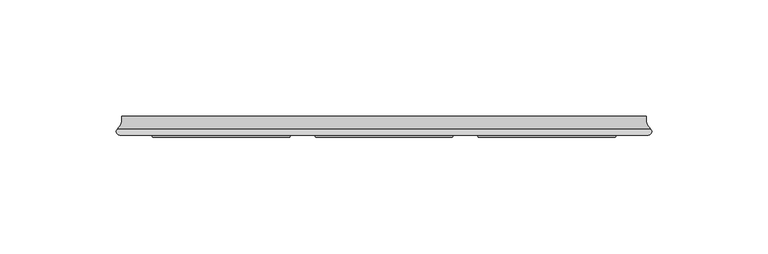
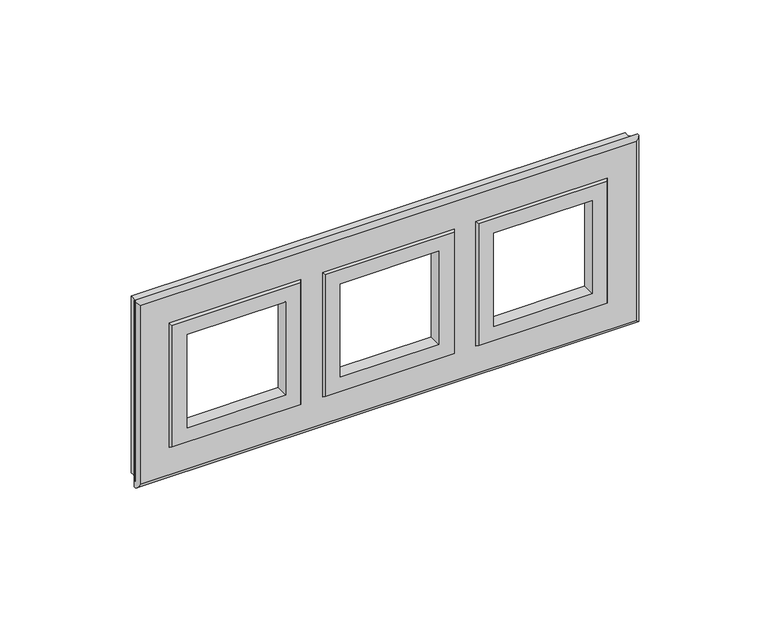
"""IFC4 building model written with IfcOpenShell, lengths in millimetres: proxy geometry."""

from ifc_helpers import new_model, si_unit, frame, origin, place, context, project, spatial, polyline, ellipse_curve, source, transform, mapped, element, save
from ifc_brep_helpers import plane_surface, cylinder_surface, revolved_surface, advanced_brep


def electrical_fixtures_578d20b1(model_context):
    return source(origin(), model_context, "Body", "AdvancedBrep", [
        advanced_brep(
        [(113.2959929, -8.0, -43.2959929), (114.5234735, -5.464633, -44.5234735), (114.5234735, -5.464633, 44.5234735), (113.2959929, -8.0, 43.2959929), (112.7730895, 0.0, -42.7730895), (112.7730895, 0.0, 42.7730895), (-114.5234735, -5.464633, 44.5234735), (-113.2959929, -8.0, 43.2959929), (-112.7730895, 0.0, 42.7730895), (-114.5234735, -5.464633, -44.5234735), (-113.2959929, -8.0, -43.2959929), (-112.7730895, 0.0, -42.7730895), (30.0257192, -8.0, 30.0257192), (30.0257192, -8.0, -30.0257192), (-30.0257192, -8.0, -30.0257192), (-30.0257192, -8.0, 30.0257192), (-39.9742808, -8.0, 30.0257192), (-39.9742808, -8.0, -30.0257192), (-100.0257192, -8.0, -30.0257192), (-100.0257192, -8.0, 30.0257192), (100.0257192, -8.0, 30.0257192), (100.0257192, -8.0, -30.0257192), (39.9742808, -8.0, -30.0257192), (39.9742808, -8.0, 30.0257192), (105.5, 0.0, 35.5), (-105.5, 0.0, 35.5), (-105.5, 0.0, -35.5), (105.5, 0.0, -35.5), (105.5, -3.0, -35.5), (105.5, -3.0, 35.5), (-105.5, -3.0, 35.5), (-105.5, -3.0, -35.5), (22.5, -3.0, -22.5), (22.5, -3.0, 22.5), (-22.5, -3.0, 22.5), (-22.5, -3.0, -22.5), (-47.5, -3.0, -22.5), (-47.5, -3.0, 22.5), (-92.5, -3.0, 22.5), (-92.5, -3.0, -22.5), (92.5, -3.0, -22.5), (92.5, -3.0, 22.5), (47.5, -3.0, 22.5), (47.5, -3.0, -22.5), (22.5, -9.0, -22.5), (22.5, -9.0, 22.5), (29.4248586, -9.0, -29.4248586), (29.4248586, -9.0, 29.4248586), (-22.5, -9.0, 22.5), (-29.4248586, -9.0, 29.4248586), (-22.5, -9.0, -22.5), (-29.4248586, -9.0, -29.4248586), (-47.5, -9.0, -22.5), (-47.5, -9.0, 22.5), (-40.5751414, -9.0, -29.4248586), (-40.5751414, -9.0, 29.4248586), (-92.5, -9.0, 22.5), (-99.4248586, -9.0, 29.4248586), (-92.5, -9.0, -22.5), (-99.4248586, -9.0, -29.4248586), (92.5, -9.0, -22.5), (92.5, -9.0, 22.5), (99.4248586, -9.0, -29.4248586), (99.4248586, -9.0, 29.4248586), (47.5, -9.0, 22.5), (40.5751414, -9.0, 29.4248586), (47.5, -9.0, -22.5), (40.5751414, -9.0, -29.4248586)],
        [
            (0, 1, ellipse_curve(frame((113.529603, -6.5482791, -43.529603), z_axis=(0.7071067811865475, 0.0, 0.7071067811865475), x_axis=(0.7071067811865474, 0.0, -0.7071067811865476)), 2.0794554, 1.470397)),
            (1, 2),
            (2, 3, ellipse_curve(frame((113.529603, -6.5482791, 43.529603), z_axis=(0.7071067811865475, 0.0, -0.7071067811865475), x_axis=(-0.7071067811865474, 0.0, -0.7071067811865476)), 2.0794554, 1.470397)),
            (3, 0),
            (1, 4, ellipse_curve(frame((118.4359157, -1.1987829, -48.4359157), z_axis=(-0.7071067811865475, 0.0, -0.7071067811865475), x_axis=(-0.7071067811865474, 0.0, 0.7071067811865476)), 8.1859246, 5.7883228)),
            (4, 5),
            (5, 2, ellipse_curve(frame((118.4359157, -1.1987829, 48.4359157), z_axis=(-0.7071067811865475, 0.0, 0.7071067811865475), x_axis=(0.7071067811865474, 0.0, 0.7071067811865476)), 8.1859246, 5.7883228)),
            (2, 6),
            (6, 7, ellipse_curve(frame((-113.529603, -6.5482791, 43.529603), z_axis=(0.7071067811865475, 0.0, 0.7071067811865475), x_axis=(0.7071067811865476, 0.0, -0.7071067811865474)), 2.0794554, 1.470397)),
            (7, 3),
            (5, 8),
            (8, 6, ellipse_curve(frame((-118.4359157, -1.1987829, 48.4359157), z_axis=(-0.7071067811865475, 0.0, -0.7071067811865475), x_axis=(-0.7071067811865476, 0.0, 0.7071067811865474)), 8.1859246, 5.7883228)),
            (6, 9),
            (9, 10, ellipse_curve(frame((-113.529603, -6.5482791, -43.529603), z_axis=(-0.7071067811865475, 0.0, 0.7071067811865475), x_axis=(0.7071067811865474, 0.0, 0.7071067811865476)), 2.0794554, 1.470397)),
            (10, 7),
            (8, 11),
            (11, 9, ellipse_curve(frame((-118.4359157, -1.1987829, -48.4359157), z_axis=(0.7071067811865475, 0.0, -0.7071067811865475), x_axis=(-0.7071067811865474, 0.0, -0.7071067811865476)), 8.1859246, 5.7883228)),
            (0, 10),
            (9, 1),
            (12, 13),
            (13, 14),
            (14, 15),
            (15, 12),
            (16, 17),
            (17, 18),
            (18, 19),
            (19, 16),
            (20, 21),
            (21, 22),
            (22, 23),
            (23, 20),
            (4, 11),
            (24, 25),
            (25, 26),
            (26, 27),
            (27, 24),
            (27, 28),
            (28, 29),
            (29, 24),
            (29, 30),
            (30, 25),
            (30, 31),
            (31, 26),
            (28, 31),
            (32, 33),
            (33, 34),
            (34, 35),
            (35, 32),
            (36, 37),
            (37, 38),
            (38, 39),
            (39, 36),
            (40, 41),
            (41, 42),
            (42, 43),
            (43, 40),
            (32, 44),
            (44, 45),
            (45, 33),
            (46, 13),
            (12, 47),
            (47, 46),
            (45, 48),
            (48, 34),
            (15, 49),
            (49, 47),
            (48, 50),
            (50, 35),
            (14, 51),
            (51, 49),
            (51, 46),
            (44, 50),
            (36, 52),
            (52, 53),
            (53, 37),
            (54, 17),
            (16, 55),
            (55, 54),
            (53, 56),
            (56, 38),
            (19, 57),
            (57, 55),
            (56, 58),
            (58, 39),
            (18, 59),
            (59, 57),
            (59, 54),
            (52, 58),
            (40, 60),
            (60, 61),
            (61, 41),
            (62, 21),
            (20, 63),
            (63, 62),
            (61, 64),
            (64, 42),
            (23, 65),
            (65, 63),
            (64, 66),
            (66, 43),
            (22, 67),
            (67, 65),
            (67, 62),
            (60, 66),
        ],
        [
            cylinder_surface(frame((113.529603, -6.5482791, -45.0), z_axis=(0.0, 0.0, -1.0), x_axis=(-1.0, 0.0, 0.0)), 1.470397),
            revolved_surface(polyline([(112.64759289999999, -1.1987829, 54.22423849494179), (112.64759289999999, -1.1987829, -54.22423849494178)]), (118.4359157, -1.1987829, -45.0), (0.0, 0.0, 1.0)),
            cylinder_surface(frame((115.0, -6.5482791, 43.529603), z_axis=(1.0, 0.0, 0.0), x_axis=(0.0, 0.0, -1.0)), 1.470397),
            revolved_surface(polyline([(-124.2242384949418, -1.1987829, 42.6475929), (124.22423849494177, -1.1987829, 42.6475929)]), (115.0, -1.1987829, 48.4359157), (-1.0, 0.0, 0.0)),
            cylinder_surface(frame((-113.529603, -6.5482791, 45.0), z_axis=(0.0, 0.0, 1.0), x_axis=(1.0, 0.0, 0.0)), 1.470397),
            revolved_surface(polyline([(-112.64759289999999, -1.1987829, -54.22423849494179), (-112.64759289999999, -1.1987829, 54.22423849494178)]), (-118.4359157, -1.1987829, 45.0), (0.0, 0.0, -1.0)),
            cylinder_surface(frame((-115.0, -6.5482791, -43.529603), z_axis=(-1.0, 0.0, 0.0), x_axis=(0.0, 0.0, 1.0)), 1.470397),
            plane_surface(frame((-113.2959929, -8.0, -43.2959929), z_axis=(0.0, -1.0, 0.0), x_axis=(1.0, 0.0, 0.0))),
            plane_surface(frame((-105.5, 0.0, -35.5), z_axis=(0.0, 1.0, 0.0), x_axis=(1.0, 0.0, 0.0))),
            revolved_surface(polyline([(124.22423849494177, -1.1987829, -42.6475929), (-124.22423849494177, -1.1987829, -42.6475929)]), (-115.0, -1.1987829, -48.4359157), (1.0, 0.0, 0.0)),
            plane_surface(frame((105.5, -3.0, -35.5), z_axis=(-1.0, 0.0, 0.0), x_axis=(0.0, 0.0, 1.0))),
            plane_surface(frame((105.5, -3.0, 35.5), z_axis=(0.0, 0.0, -1.0), x_axis=(-1.0, 0.0, 0.0))),
            plane_surface(frame((-105.5, -3.0, 35.5), z_axis=(1.0, 0.0, 0.0), x_axis=(0.0, 0.0, -1.0))),
            plane_surface(frame((-100.0257192, -3.0, -30.0257192), z_axis=(0.0, 1.0, 0.0), x_axis=(1.0, 0.0, 0.0))),
            plane_surface(frame((-105.5, -3.0, -35.5), z_axis=(0.0, 0.0, 1.0), x_axis=(1.0, 0.0, 0.0))),
            plane_surface(frame((22.5, -9.0, -22.5), z_axis=(-1.0, 0.0, 0.0), x_axis=(0.0, 0.0, 1.0))),
            plane_surface(frame((30.0257192, -8.0, -30.0257192), z_axis=(0.8571673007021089, -0.5150380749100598, 0.0), x_axis=(0.0, 0.0, 1.0))),
            plane_surface(frame((22.5, -9.0, 22.5), z_axis=(0.0, 0.0, -1.0), x_axis=(-1.0, 0.0, 0.0))),
            plane_surface(frame((30.0257192, -8.0, 30.0257192), z_axis=(0.0, -0.5150380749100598, 0.8571673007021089), x_axis=(-1.0, 0.0, 0.0))),
            plane_surface(frame((-22.5, -9.0, 22.5), z_axis=(1.0, 0.0, 0.0), x_axis=(0.0, 0.0, -1.0))),
            plane_surface(frame((-30.0257192, -8.0, 30.0257192), z_axis=(-0.8571673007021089, -0.5150380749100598, 0.0), x_axis=(0.0, 0.0, -1.0))),
            plane_surface(frame((-29.4248586, -9.0, -29.4248586), z_axis=(0.0, -1.0, 0.0), x_axis=(1.0, 0.0, 0.0))),
            plane_surface(frame((-22.5, -9.0, -22.5), z_axis=(0.0, 0.0, 1.0), x_axis=(1.0, 0.0, 0.0))),
            plane_surface(frame((-30.0257192, -8.0, -30.0257192), z_axis=(0.0, -0.5150380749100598, -0.8571673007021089), x_axis=(1.0, 0.0, 0.0))),
            plane_surface(frame((-47.5, -9.0, -22.5), z_axis=(-1.0, 0.0, 0.0), x_axis=(0.0, 0.0, 1.0))),
            plane_surface(frame((-39.9742808, -8.0, -30.0257192), z_axis=(0.8571673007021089, -0.5150380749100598, 0.0), x_axis=(0.0, 0.0, 1.0))),
            plane_surface(frame((-47.5, -9.0, 22.5), z_axis=(0.0, 0.0, -1.0), x_axis=(-1.0, 0.0, 0.0))),
            plane_surface(frame((-39.9742808, -8.0, 30.0257192), z_axis=(0.0, -0.5150380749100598, 0.8571673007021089), x_axis=(-1.0, 0.0, 0.0))),
            plane_surface(frame((-92.5, -9.0, 22.5), z_axis=(1.0, 0.0, 0.0), x_axis=(0.0, 0.0, -1.0))),
            plane_surface(frame((-100.0257192, -8.0, 30.0257192), z_axis=(-0.8571673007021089, -0.5150380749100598, 0.0), x_axis=(0.0, 0.0, -1.0))),
            plane_surface(frame((-99.4248586, -9.0, -29.4248586), z_axis=(0.0, -1.0, 0.0), x_axis=(1.0, 0.0, 0.0))),
            plane_surface(frame((-92.5, -9.0, -22.5), z_axis=(0.0, 0.0, 1.0), x_axis=(1.0, 0.0, 0.0))),
            plane_surface(frame((-100.0257192, -8.0, -30.0257192), z_axis=(0.0, -0.5150380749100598, -0.8571673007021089), x_axis=(1.0, 0.0, 0.0))),
            plane_surface(frame((92.5, -9.0, -22.5), z_axis=(-1.0, 0.0, 0.0), x_axis=(0.0, 0.0, 1.0))),
            plane_surface(frame((100.0257192, -8.0, -30.0257192), z_axis=(0.8571673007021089, -0.5150380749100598, 0.0), x_axis=(0.0, 0.0, 1.0))),
            plane_surface(frame((92.5, -9.0, 22.5), z_axis=(0.0, 0.0, -1.0), x_axis=(-1.0, 0.0, 0.0))),
            plane_surface(frame((100.0257192, -8.0, 30.0257192), z_axis=(0.0, -0.5150380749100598, 0.8571673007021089), x_axis=(-1.0, 0.0, 0.0))),
            plane_surface(frame((47.5, -9.0, 22.5), z_axis=(1.0, 0.0, 0.0), x_axis=(0.0, 0.0, -1.0))),
            plane_surface(frame((39.9742808, -8.0, 30.0257192), z_axis=(-0.8571673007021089, -0.5150380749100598, 0.0), x_axis=(0.0, 0.0, -1.0))),
            plane_surface(frame((40.5751414, -9.0, -29.4248586), z_axis=(0.0, -1.0, 0.0), x_axis=(1.0, 0.0, 0.0))),
            plane_surface(frame((47.5, -9.0, -22.5), z_axis=(0.0, 0.0, 1.0), x_axis=(1.0, 0.0, 0.0))),
            plane_surface(frame((39.9742808, -8.0, -30.0257192), z_axis=(0.0, -0.5150380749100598, -0.8571673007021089), x_axis=(1.0, 0.0, 0.0))),
        ],
        [
            (0, [[1, 2, 3, 4]]),
            (1, [[-2, 5, 6, 7]]),
            (2, [[-3, 8, 9, 10]]),
            (3, [[-7, 11, 12, -8]]),
            (4, [[-9, 13, 14, 15]]),
            (5, [[-12, 16, 17, -13]]),
            (6, [[-1, 18, -14, 19]]),
            (7, [[-4, -10, -15, -18], [20, 21, 22, 23], [24, 25, 26, 27], [28, 29, 30, 31]]),
            (8, [[-6, 32, -16, -11], [33, 34, 35, 36]]),
            (9, [[-5, -19, -17, -32]]),
            (10, [[-36, 37, 38, 39]]),
            (11, [[-33, -39, 40, 41]]),
            (12, [[-34, -41, 42, 43]]),
            (13, [[-38, 44, -42, -40], [45, 46, 47, 48], [49, 50, 51, 52], [53, 54, 55, 56]]),
            (14, [[-35, -43, -44, -37]]),
            (15, [[57, 58, 59, -45]]),
            (16, [[60, -20, 61, 62]]),
            (17, [[-59, 63, 64, -46]]),
            (18, [[-61, -23, 65, 66]]),
            (19, [[-64, 67, 68, -47]]),
            (20, [[-65, -22, 69, 70]]),
            (21, [[-62, -66, -70, 71], [-58, 72, -67, -63]]),
            (22, [[-57, -48, -68, -72]]),
            (23, [[-60, -71, -69, -21]]),
            (24, [[73, 74, 75, -49]]),
            (25, [[76, -24, 77, 78]]),
            (26, [[-75, 79, 80, -50]]),
            (27, [[-77, -27, 81, 82]]),
            (28, [[-80, 83, 84, -51]]),
            (29, [[-81, -26, 85, 86]]),
            (30, [[-78, -82, -86, 87], [-74, 88, -83, -79]]),
            (31, [[-73, -52, -84, -88]]),
            (32, [[-76, -87, -85, -25]]),
            (33, [[89, 90, 91, -53]]),
            (34, [[92, -28, 93, 94]]),
            (35, [[-91, 95, 96, -54]]),
            (36, [[-93, -31, 97, 98]]),
            (37, [[-96, 99, 100, -55]]),
            (38, [[-97, -30, 101, 102]]),
            (39, [[-94, -98, -102, 103], [-90, 104, -99, -95]]),
            (40, [[-89, -56, -100, -104]]),
            (41, [[-92, -103, -101, -29]]),
        ],
    ),
    ])


if __name__ == "__main__":
    model = new_model("IFC4")
    model_context = context("Model", 3, world=origin())
    ifc_project = project(units=[si_unit("LENGTHUNIT", "METRE", prefix="MILLI")], contexts=[model_context])
    site = spatial("IfcSite", under=ifc_project)
    building = spatial("IfcBuilding", under=site)
    placement = place(None, origin())
    electrical_fixtures_shape = electrical_fixtures_578d20b1(model_context)
    element("IfcBuildingElementProxy", 1, Name="Electrical Fixtures", at=placement, inside=building, context=model_context, shape_type="MappedRepresentation", body=[
        mapped(electrical_fixtures_shape, transform((0.0, 0.0, 0.0), x_axis=(1.0, 0.0, 0.0), y_axis=(0.0, 1.0, 0.0), z_axis=(0.0, 0.0, 1.0))),
    ])
    save(model, "model.ifc")
